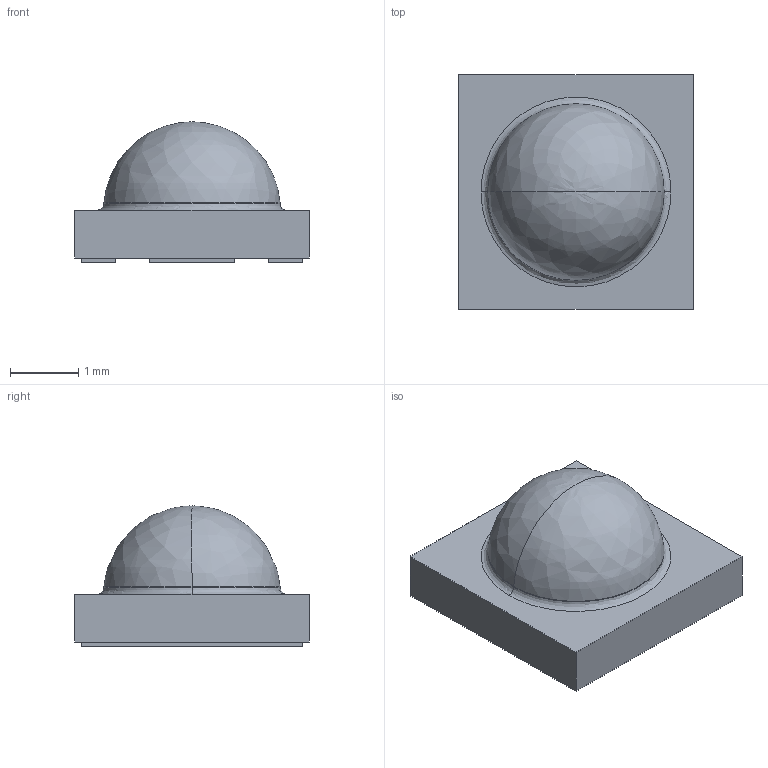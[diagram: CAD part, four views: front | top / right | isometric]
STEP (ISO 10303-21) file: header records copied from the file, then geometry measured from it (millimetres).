
FILE_DESCRIPTION (( 'STEP AP203' ), '1' );
FILE_NAME ('EOH-CTRUCEA-KG.STEP', '2017-03-01T01:16:41', ( 'Sky123.Org' ), ( 'Sky123.Org' ), 'SwSTEP 2.0', 'SolidWorks 2012', '' );
FILE_SCHEMA (( 'CONFIG_CONTROL_DESIGN' ));
Length unit declared in the file: millimetre
Products named in the file (1): EOH-CTRUCEA-KG
Bounding box: 3.45 x 3.45 x 2.06 mm (x, y, z)
Volume: 13.4 mm3; surface area: 39.9 mm2
Topology: 1 solids, 1 shells, 28 faces, 65 edges, 41 vertices
Faces by surface type: plane 22, bspline 6
Entity records: 1046 total; most frequent: CARTESIAN_POINT 373, ORIENTED_EDGE 126, DIRECTION 109, EDGE_CURVE 63, VECTOR 51, LINE 51, VERTEX_POINT 41, EDGE_LOOP 32
